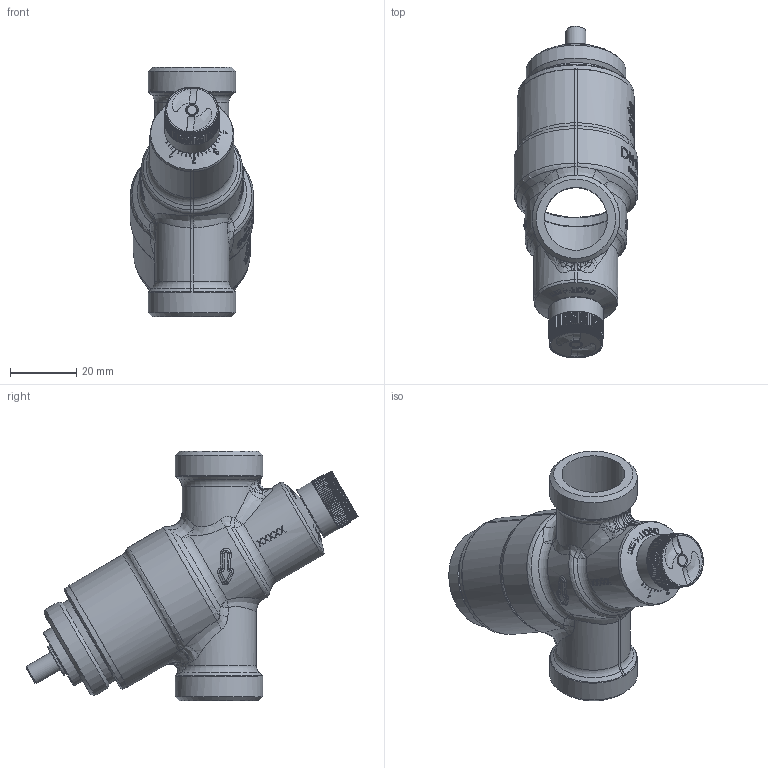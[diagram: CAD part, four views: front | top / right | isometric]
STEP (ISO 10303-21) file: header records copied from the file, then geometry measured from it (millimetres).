
FILE_DESCRIPTION(/* description */ ('Ventil on/off DN15 N/N High'),/* implementation_level */ '2;1');
FILE_NAME(/* name */ 'C:\Users\cbr\Desktop\01-0241.stp',/* time_stamp */ '2019-10-23T10:02:42+02:00',/* author */ ('cbr'),/* organization */ (''),/* preprocessor_version */ 'ST-DEVELOPER v17.2',/* originating_system */ 'Autodesk Inventor 2019',/* authorisation */ '');
FILE_SCHEMA (('AUTOMOTIVE_DESIGN { 1 0 10303 214 3 1 1 }'));
Length unit declared in the file: millimetre
Products named in the file (21): 01-0241; 59767; 901310; 69706; 75609; 68936; 73039-90778; 66591; 66083; 80502; 79168-901310; 73160-901310; 73047; 66592; 80503; 73039-01-02XX; 75315; 67467; 79169; 75612; 91707_01-0241
Assembly tree (22 placements, depth 3):
  01-0241
    59767
    901310
      69706
      75609
      68936
      73039-90778  x2
      66591
      66083
      80502
      79168-901310
      73160-901310
      73047
      66592
      79169
    80503
    73039-01-02XX
    75315
    67467
    79169
    75612
    91707_01-0241
Bounding box: 37.35 x 100.09 x 75.3 mm (x, y, z)
Volume: 36806.5 mm3; surface area: 38467.4 mm2
Topology: 112 solids, 112 shells, 2580 faces, 6829 edges, 4502 vertices
Faces by surface type: plane 1114, bspline 793, cylinder 465, cone 128, torus 76, sphere 4
Full cylindrical faces by diameter (mm): 2 x1, 3 x1, 3.1 x2, 3.2 x2, 3.3 x1, 4 x2, 6 x3, 6.1 x2, 6.2 x5, 6.3 x1, 7 x1, 7.4 x1, 7.5 x2, 8 x1, 9.3 x1, 9.5 x1, 9.6 x2, 10 x3, 11 x2, 11.5 x1, 12 x2, 14.5 x1, 15.6 x1, 16.5 x1, 18.6 x1, 19 x2, 21 x1, 22 x1, 22.3 x1, 23.5 x1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
Entity records: 107388 total; most frequent: CARTESIAN_POINT 46973, ORIENTED_EDGE 13498, DIRECTION 10212, EDGE_CURVE 6749, VERTEX_POINT 4461, AXIS2_PLACEMENT_3D 3453, LINE 3306, VECTOR 3306
